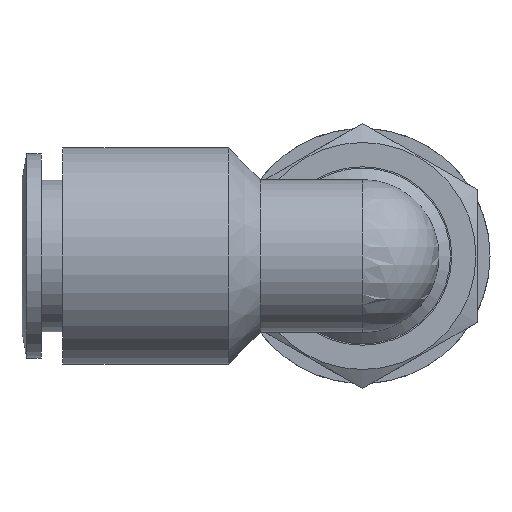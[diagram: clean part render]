
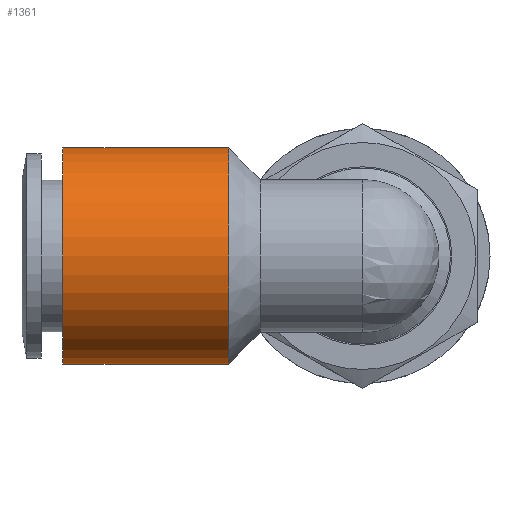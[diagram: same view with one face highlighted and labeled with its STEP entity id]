
A CAD part, left-side view. The second image highlights one B-rep face of the part: STEP entity #1361.
In plain terms, the highlighted cylindrical face has radius 8.5 mm (diameter 17 mm), a full revolution.
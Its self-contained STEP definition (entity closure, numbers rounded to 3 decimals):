
#1327=CARTESIAN_POINT('',(-8.5,10.5,0.0));
#1328=VERTEX_POINT('',#1327);
#1329=CARTESIAN_POINT('',(0.0,10.5,0.0));
#1330=DIRECTION('',(0.0,1.0,0.0));
#1331=DIRECTION('',(-1.0,0.0,0.0));
#1332=AXIS2_PLACEMENT_3D('',#1329,#1330,#1331);
#1333=CIRCLE('',#1332,8.5);
#1334=EDGE_CURVE('',#1328,#1328,#1333,.T.);
#1342=CARTESIAN_POINT('',(0.0,17.0,0.0));
#1343=DIRECTION('',(0.0,1.0,0.0));
#1344=DIRECTION('',(-1.0,0.0,0.0));
#1345=AXIS2_PLACEMENT_3D('',#1342,#1343,#1344);
#1346=CYLINDRICAL_SURFACE('',#1345,8.5);
#1347=CARTESIAN_POINT('',(-8.5,23.5,0.0));
#1348=VERTEX_POINT('',#1347);
#1349=CARTESIAN_POINT('',(0.0,23.5,0.0));
#1350=DIRECTION('',(0.0,1.0,0.0));
#1351=DIRECTION('',(-1.0,0.0,0.0));
#1352=AXIS2_PLACEMENT_3D('',#1349,#1350,#1351);
#1353=CIRCLE('',#1352,8.5);
#1354=EDGE_CURVE('',#1348,#1348,#1353,.T.);
#1355=ORIENTED_EDGE('',*,*,#1354,.F.);
#1356=EDGE_LOOP('',(#1355));
#1357=FACE_OUTER_BOUND('',#1356,.T.);
#1358=ORIENTED_EDGE('',*,*,#1334,.T.);
#1359=EDGE_LOOP('',(#1358));
#1360=FACE_BOUND('',#1359,.T.);
#1361=ADVANCED_FACE('',(#1357,#1360),#1346,.T.);
